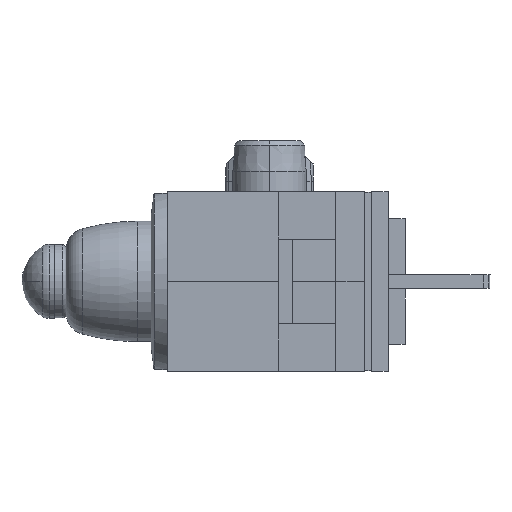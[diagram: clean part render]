
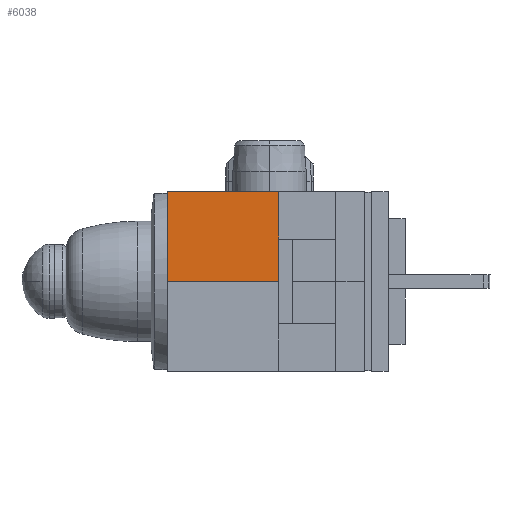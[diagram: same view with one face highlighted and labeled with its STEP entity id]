
A CAD part, left-side view. The second image highlights one B-rep face of the part: STEP entity #6038.
In plain terms, the highlighted planar face has unit normal (-1, 0, 0.007).
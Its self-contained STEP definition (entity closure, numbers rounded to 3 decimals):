
#95 = DIRECTION ( 'NONE',  ( 0., 1., 0. ) ) ;
#110 = VECTOR ( 'NONE', #7512, 1000. ) ;
#159 = VECTOR ( 'NONE', #6648, 1000. ) ;
#764 = CARTESIAN_POINT ( 'NONE',  ( -18.323, 11.225, 11.85 ) ) ;
#1065 = LINE ( 'NONE', #764, #4422 ) ;
#1237 = CARTESIAN_POINT ( 'NONE',  ( -18.28, 14.5, 17.5 ) ) ;
#1274 = LINE ( 'NONE', #3461, #2873 ) ;
#1432 = EDGE_CURVE ( 'NONE', #1670, #7910, #2155, .T. ) ;
#1670 = VERTEX_POINT ( 'NONE', #5324 ) ;
#1706 = CARTESIAN_POINT ( 'NONE',  ( -18.28, 4.5, 17.5 ) ) ;
#2155 = LINE ( 'NONE', #5597, #159 ) ;
#2407 = DIRECTION ( 'NONE',  ( 1., 0., -0.008 ) ) ;
#2609 = EDGE_CURVE ( 'NONE', #8097, #5891, #1274, .T. ) ;
#2659 = EDGE_CURVE ( 'NONE', #1670, #8097, #1065, .T. ) ;
#2873 = VECTOR ( 'NONE', #95, 1000. ) ;
#2891 = CARTESIAN_POINT ( 'NONE',  ( -18.3, 11.225, 14.85 ) ) ;
#2902 = CARTESIAN_POINT ( 'NONE',  ( -18.3, 14.5, 14.85 ) ) ;
#3154 = EDGE_CURVE ( 'NONE', #7910, #5891, #3898, .T. ) ;
#3461 = CARTESIAN_POINT ( 'NONE',  ( -18.3, 4.5, 14.85 ) ) ;
#3739 = ORIENTED_EDGE ( 'NONE', *, *, #2609, .F. ) ;
#3898 = LINE ( 'NONE', #4885, #110 ) ;
#4118 = AXIS2_PLACEMENT_3D ( 'NONE', #1706, #2407, #7015 ) ;
#4422 = VECTOR ( 'NONE', #8072, 1000. ) ;
#4885 = CARTESIAN_POINT ( 'NONE',  ( -18.28, 14.5, 17.5 ) ) ;
#5045 = PLANE ( 'NONE',  #4118 ) ;
#5149 = ORIENTED_EDGE ( 'NONE', *, *, #3154, .T. ) ;
#5250 = ORIENTED_EDGE ( 'NONE', *, *, #1432, .T. ) ;
#5324 = CARTESIAN_POINT ( 'NONE',  ( -18.28, 11.225, 17.5 ) ) ;
#5369 = EDGE_LOOP ( 'NONE', ( #5250, #5149, #3739, #7590 ) ) ;
#5597 = CARTESIAN_POINT ( 'NONE',  ( -18.28, 4.5, 17.5 ) ) ;
#5715 = FACE_OUTER_BOUND ( 'NONE', #5369, .T. ) ;
#5891 = VERTEX_POINT ( 'NONE', #2902 ) ;
#6038 = ADVANCED_FACE ( 'NONE', ( #5715 ), #5045, .F. ) ;
#6648 = DIRECTION ( 'NONE',  ( 0., 1., 0. ) ) ;
#7015 = DIRECTION ( 'NONE',  ( -0.008, 0., -1. ) ) ;
#7512 = DIRECTION ( 'NONE',  ( -0.008, 0., -1. ) ) ;
#7590 = ORIENTED_EDGE ( 'NONE', *, *, #2659, .F. ) ;
#7910 = VERTEX_POINT ( 'NONE', #1237 ) ;
#8072 = DIRECTION ( 'NONE',  ( -0.008, 0., -1. ) ) ;
#8097 = VERTEX_POINT ( 'NONE', #2891 ) ;
